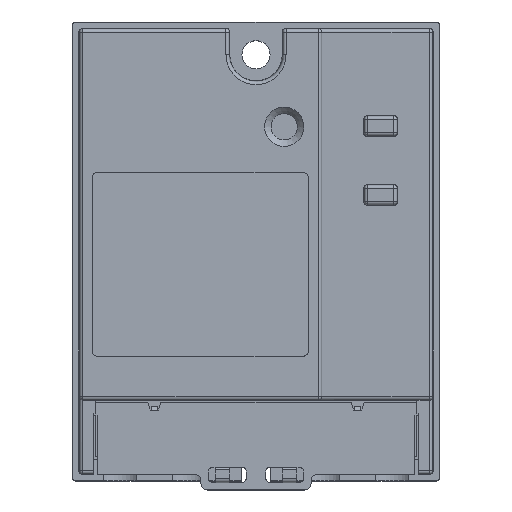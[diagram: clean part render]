
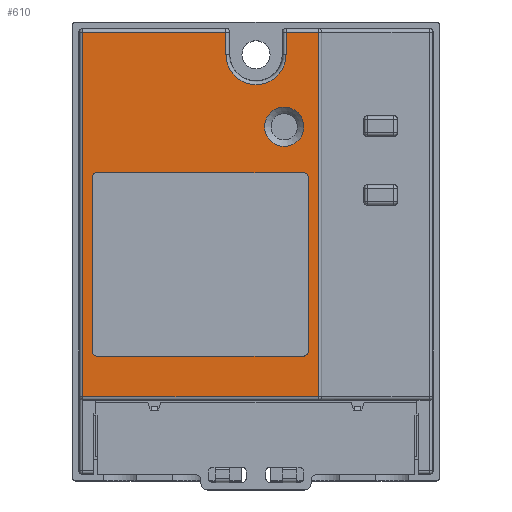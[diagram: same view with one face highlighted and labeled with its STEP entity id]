
A CAD part, top view. The second image highlights one B-rep face of the part: STEP entity #610.
In plain terms, the highlighted planar face has unit normal (0, 0, 1).
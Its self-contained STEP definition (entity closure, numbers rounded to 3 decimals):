
#266=CIRCLE('',#7018,0.8);
#267=CIRCLE('',#7019,0.8);
#268=CIRCLE('',#7020,0.8);
#269=CIRCLE('',#7021,0.8);
#270=CIRCLE('',#7022,4.583);
#271=CIRCLE('',#7023,3.);
#514=FACE_BOUND('',#1597,.T.);
#515=FACE_BOUND('',#1598,.T.);
#516=FACE_BOUND('',#1599,.T.);
#610=ADVANCED_FACE('',(#514,#515,#516),#998,.F.);
#998=PLANE('',#7024);
#1597=EDGE_LOOP('',(#2058,#2059,#2060,#2061,#2062,#2063,#2064,#2065));
#1598=EDGE_LOOP('',(#2066,#2067,#2068,#2069,#2070,#2071,#2072,#2073));
#1599=EDGE_LOOP('',(#2074));
#2058=ORIENTED_EDGE('',*,*,#4647,.T.);
#2059=ORIENTED_EDGE('',*,*,#4648,.T.);
#2060=ORIENTED_EDGE('',*,*,#4649,.T.);
#2061=ORIENTED_EDGE('',*,*,#4650,.T.);
#2062=ORIENTED_EDGE('',*,*,#4651,.T.);
#2063=ORIENTED_EDGE('',*,*,#4652,.T.);
#2064=ORIENTED_EDGE('',*,*,#4653,.T.);
#2065=ORIENTED_EDGE('',*,*,#4654,.T.);
#2066=ORIENTED_EDGE('',*,*,#4655,.T.);
#2067=ORIENTED_EDGE('',*,*,#4656,.T.);
#2068=ORIENTED_EDGE('',*,*,#4657,.T.);
#2069=ORIENTED_EDGE('',*,*,#4658,.T.);
#2070=ORIENTED_EDGE('',*,*,#4659,.T.);
#2071=ORIENTED_EDGE('',*,*,#4660,.T.);
#2072=ORIENTED_EDGE('',*,*,#4661,.T.);
#2073=ORIENTED_EDGE('',*,*,#4662,.T.);
#2074=ORIENTED_EDGE('',*,*,#4663,.T.);
#4018=VERTEX_POINT('',#9720);
#4019=VERTEX_POINT('',#9721);
#4020=VERTEX_POINT('',#9723);
#4021=VERTEX_POINT('',#9725);
#4022=VERTEX_POINT('',#9727);
#4023=VERTEX_POINT('',#9729);
#4024=VERTEX_POINT('',#9731);
#4025=VERTEX_POINT('',#9733);
#4026=VERTEX_POINT('',#9736);
#4027=VERTEX_POINT('',#9737);
#4028=VERTEX_POINT('',#9739);
#4029=VERTEX_POINT('',#9741);
#4030=VERTEX_POINT('',#9743);
#4031=VERTEX_POINT('',#9745);
#4032=VERTEX_POINT('',#9747);
#4033=VERTEX_POINT('',#9749);
#4034=VERTEX_POINT('',#9752);
#4647=EDGE_CURVE('',#4018,#4019,#5627,.T.);
#4648=EDGE_CURVE('',#4019,#4020,#266,.T.);
#4649=EDGE_CURVE('',#4020,#4021,#5628,.T.);
#4650=EDGE_CURVE('',#4021,#4022,#267,.T.);
#4651=EDGE_CURVE('',#4022,#4023,#5629,.T.);
#4652=EDGE_CURVE('',#4023,#4024,#268,.T.);
#4653=EDGE_CURVE('',#4024,#4025,#5630,.T.);
#4654=EDGE_CURVE('',#4025,#4018,#269,.T.);
#4655=EDGE_CURVE('',#4026,#4027,#5631,.T.);
#4656=EDGE_CURVE('',#4027,#4028,#5632,.T.);
#4657=EDGE_CURVE('',#4028,#4029,#5633,.T.);
#4658=EDGE_CURVE('',#4029,#4030,#5634,.T.);
#4659=EDGE_CURVE('',#4030,#4031,#5635,.T.);
#4660=EDGE_CURVE('',#4031,#4032,#270,.T.);
#4661=EDGE_CURVE('',#4032,#4033,#5636,.T.);
#4662=EDGE_CURVE('',#4033,#4026,#5637,.T.);
#4663=EDGE_CURVE('',#4034,#4034,#271,.T.);
#5627=LINE('',#9719,#6334);
#5628=LINE('',#9724,#6335);
#5629=LINE('',#9728,#6336);
#5630=LINE('',#9732,#6337);
#5631=LINE('',#9735,#6338);
#5632=LINE('',#9738,#6339);
#5633=LINE('',#9740,#6340);
#5634=LINE('',#9742,#6341);
#5635=LINE('',#9744,#6342);
#5636=LINE('',#9748,#6343);
#5637=LINE('',#9750,#6344);
#6334=VECTOR('',#7697,1.);
#6335=VECTOR('',#7700,1.);
#6336=VECTOR('',#7703,1.);
#6337=VECTOR('',#7706,1.);
#6338=VECTOR('',#7709,1.);
#6339=VECTOR('',#7710,1.);
#6340=VECTOR('',#7711,1.);
#6341=VECTOR('',#7712,1.);
#6342=VECTOR('',#7713,1.);
#6343=VECTOR('',#7716,1.);
#6344=VECTOR('',#7717,1.);
#7018=AXIS2_PLACEMENT_3D('',#9722,#7698,#7699);
#7019=AXIS2_PLACEMENT_3D('',#9726,#7701,#7702);
#7020=AXIS2_PLACEMENT_3D('',#9730,#7704,#7705);
#7021=AXIS2_PLACEMENT_3D('',#9734,#7707,#7708);
#7022=AXIS2_PLACEMENT_3D('',#9746,#7714,#7715);
#7023=AXIS2_PLACEMENT_3D('',#9751,#7718,#7719);
#7024=AXIS2_PLACEMENT_3D('',#9753,#7720,#7721);
#7697=DIRECTION('',(-1.,0.,0.));
#7698=DIRECTION('',(0.,0.,-1.));
#7699=DIRECTION('',(-1.,0.,0.));
#7700=DIRECTION('',(0.,1.,0.));
#7701=DIRECTION('',(0.,0.,-1.));
#7702=DIRECTION('',(-1.,0.,0.));
#7703=DIRECTION('',(1.,0.,0.));
#7704=DIRECTION('',(0.,0.,-1.));
#7705=DIRECTION('',(-1.,0.,0.));
#7706=DIRECTION('',(0.,-1.,0.));
#7707=DIRECTION('',(0.,0.,-1.));
#7708=DIRECTION('',(-1.,0.,0.));
#7709=DIRECTION('',(0.,-1.,0.));
#7710=DIRECTION('',(1.,0.,0.));
#7711=DIRECTION('',(0.,1.,0.));
#7712=DIRECTION('',(-1.,0.,0.));
#7713=DIRECTION('',(0.,-1.,0.));
#7714=DIRECTION('',(0.,0.,-1.));
#7715=DIRECTION('',(-1.,0.,0.));
#7716=DIRECTION('',(0.,1.,0.));
#7717=DIRECTION('',(-1.,0.,0.));
#7718=DIRECTION('',(0.,0.,-1.));
#7719=DIRECTION('',(-1.,0.,0.));
#7720=DIRECTION('',(0.,0.,-1.));
#7721=DIRECTION('',(-1.,0.,0.));
#9719=CARTESIAN_POINT('',(0.,-51.,20.));
#9720=CARTESIAN_POINT('',(7.2,-51.,20.));
#9721=CARTESIAN_POINT('',(-24.2,-51.,20.));
#9722=CARTESIAN_POINT('',(-24.2,-50.2,20.));
#9723=CARTESIAN_POINT('',(-25.,-50.2,20.));
#9724=CARTESIAN_POINT('',(-25.,0.,20.));
#9725=CARTESIAN_POINT('',(-25.,-23.8,20.));
#9726=CARTESIAN_POINT('',(-24.2,-23.8,20.));
#9727=CARTESIAN_POINT('',(-24.2,-23.,20.));
#9728=CARTESIAN_POINT('',(0.,-23.,20.));
#9729=CARTESIAN_POINT('',(7.2,-23.,20.));
#9730=CARTESIAN_POINT('',(7.2,-23.8,20.));
#9731=CARTESIAN_POINT('',(8.,-23.8,20.));
#9732=CARTESIAN_POINT('',(8.,0.,20.));
#9733=CARTESIAN_POINT('',(8.,-50.2,20.));
#9734=CARTESIAN_POINT('',(7.2,-50.2,20.));
#9735=CARTESIAN_POINT('',(-26.417,-57.2,20.));
#9736=CARTESIAN_POINT('',(-26.417,-1.583,20.));
#9737=CARTESIAN_POINT('',(-26.417,-57.2,20.));
#9738=CARTESIAN_POINT('',(0.,-57.2,20.));
#9739=CARTESIAN_POINT('',(9.5,-57.2,20.));
#9740=CARTESIAN_POINT('',(9.5,0.,20.));
#9741=CARTESIAN_POINT('',(9.5,-1.583,20.));
#9742=CARTESIAN_POINT('',(4.587,-1.583,20.));
#9743=CARTESIAN_POINT('',(4.583,-1.583,20.));
#9744=CARTESIAN_POINT('',(4.583,0.,20.));
#9745=CARTESIAN_POINT('',(4.583,-5.,20.));
#9746=CARTESIAN_POINT('',(0.,-5.,20.));
#9747=CARTESIAN_POINT('',(-4.583,-5.,20.));
#9748=CARTESIAN_POINT('',(-4.583,0.,20.));
#9749=CARTESIAN_POINT('',(-4.583,-1.583,20.));
#9750=CARTESIAN_POINT('',(-26.413,-1.583,20.));
#9751=CARTESIAN_POINT('',(4.3,-16.,20.));
#9752=CARTESIAN_POINT('',(1.3,-16.,20.));
#9753=CARTESIAN_POINT('',(0.,0.,20.));
